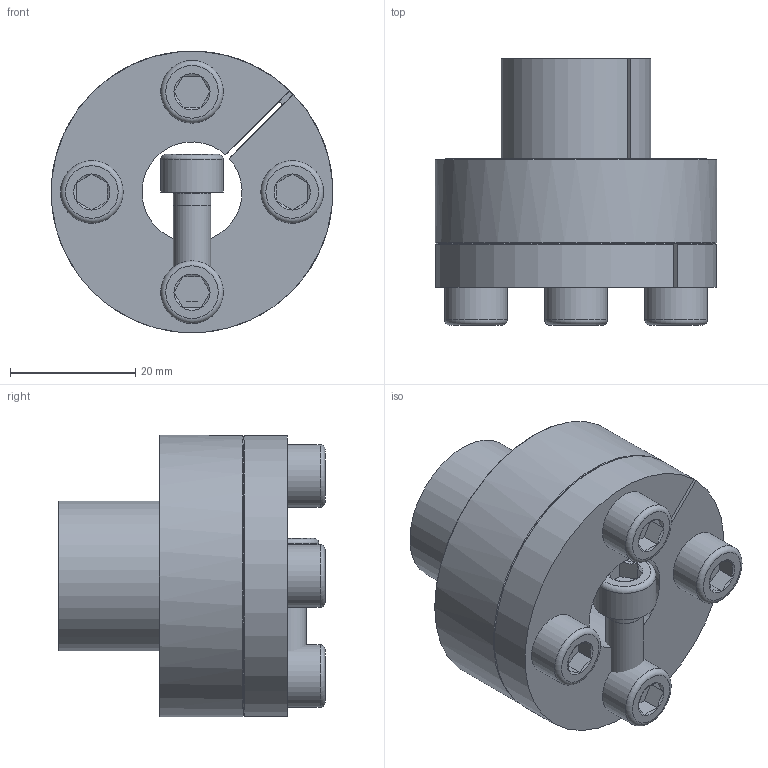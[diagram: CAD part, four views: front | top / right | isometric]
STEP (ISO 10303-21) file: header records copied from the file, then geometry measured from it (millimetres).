
FILE_DESCRIPTION( ( 'Unknown' ), '1' );
FILE_NAME( 'C:/Dokumente und Einstellungen/Sven/Desktop/homepage/cad - homepage/KBS80/KBS 80 - 15 x 24.stp', 'Unknown', ( 'Unknown' ), ( 'Unknown' ), 'XStep 1.0', 'Unknown', ' ' );
FILE_SCHEMA( ( 'automotive_design' ) );
Length unit declared in the file: millimetre
Products named in the file (6): Assem1; KBS 80 - 15 x 24; ISO EN DIN 4762 M6x18; ISO EN DIN 4762 M6x18-oa0; ISO EN DIN 4762 M6x18-oa1; ISO EN DIN 4762 M6x18-oa2
Bounding box: 45 x 42.5 x 45 mm (x, y, z)
Volume: 67036.9 mm3; surface area: 27209.6 mm2
Topology: 10 solids, 10 shells, 248 faces, 478 edges, 280 vertices
Faces by surface type: plane 112, cone 70, cylinder 50, torus 16
Full cylindrical faces by diameter (mm): 5 x8, 6 x24, 10 x8, 45 x2
Entity records: 3283 total; most frequent: CARTESIAN_POINT 661, DIRECTION 516, ORIENTED_EDGE 386, AXIS2_PLACEMENT_3D 225, EDGE_CURVE 193, EDGE_LOOP 185, FACE_OUTER_BOUND 153, VERTEX_POINT 130
